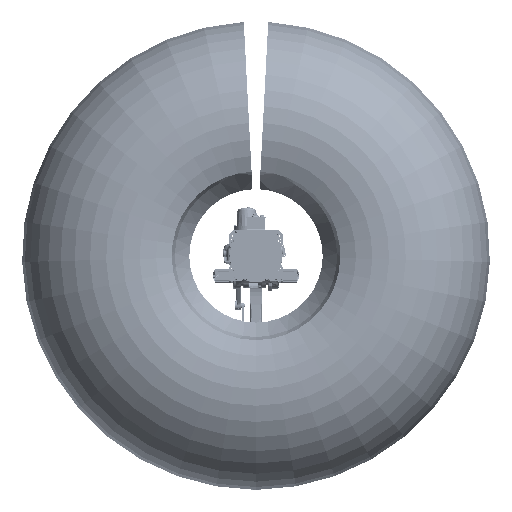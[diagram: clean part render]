
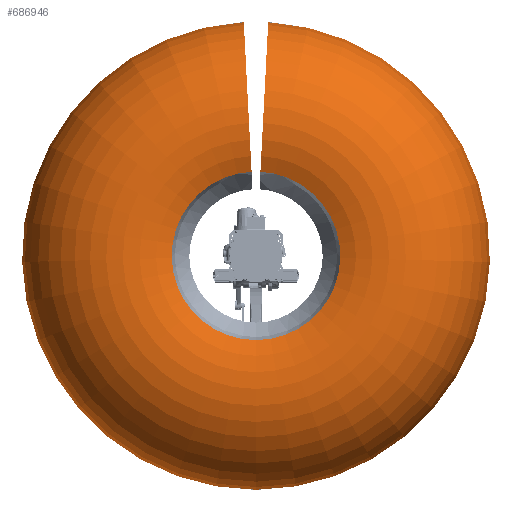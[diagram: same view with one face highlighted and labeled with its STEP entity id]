
A CAD part, front view. The second image highlights one B-rep face of the part: STEP entity #686946.
In plain terms, the highlighted toroidal (fillet/blend) face has major radius 1763 mm and minor radius 1394 mm.
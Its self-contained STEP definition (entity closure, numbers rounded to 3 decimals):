
#686704=CARTESIAN_POINT('',(-92.268,472.44,
1760.585));
#686705=DIRECTION('',(-0.999,0.,-0.052));
#686706=DIRECTION('',(0.024,-0.893,-0.449));
#686707=AXIS2_PLACEMENT_3D('',#686704,#686705,#686706);
#686739=CARTESIAN_POINT('',(0.,358.024,0.));
#686740=DIRECTION('',(0.,-1.,0.));
#686741=DIRECTION('',(-0.052,0.,0.999));
#686742=AXIS2_PLACEMENT_3D('',#686739,#686740,#686741);
#686744=CARTESIAN_POINT('',(0.,-772.425,0.));
#686745=DIRECTION('',(0.,-1.,0.));
#686746=DIRECTION('',(-0.052,0.,0.999));
#686747=AXIS2_PLACEMENT_3D('',#686744,#686745,#686746);
#686774=CARTESIAN_POINT('',(92.268,472.44,
1760.585));
#686775=DIRECTION('',(-0.999,0.,0.052));
#686776=DIRECTION('',(-0.024,-0.893,
-0.449));
#686777=AXIS2_PLACEMENT_3D('',#686774,#686775,#686776);
#686788=CARTESIAN_POINT('',(-59.436,-772.425,
1134.111));
#686789=VERTEX_POINT('',#686788);
#686790=CARTESIAN_POINT('',(-164.979,358.024,
3147.978));
#686791=VERTEX_POINT('',#686790);
#686800=CARTESIAN_POINT('',(59.436,-772.425,
1134.111));
#686801=VERTEX_POINT('',#686800);
#686802=CARTESIAN_POINT('',(164.979,358.024,
3147.978));
#686803=VERTEX_POINT('',#686802);
#686933=CARTESIAN_POINT('',(0.,472.44,0.));
#686934=DIRECTION('',(0.,-1.,0.));
#686935=DIRECTION('',(0.052,0.,-0.999));
#686936=AXIS2_PLACEMENT_3D('',#686933,#686934,#686935);
#686937=TOROIDAL_SURFACE('',#686936,1763.001,1394.);
#686938=ORIENTED_EDGE('',*,*,#686817,.F.);
#686940=ORIENTED_EDGE('',*,*,#686939,.T.);
#686942=ORIENTED_EDGE('',*,*,#686941,.T.);
#686943=ORIENTED_EDGE('',*,*,#686925,.F.);
#686944=EDGE_LOOP('',(#686938,#686940,#686942,#686943));
#686945=FACE_OUTER_BOUND('',#686944,.F.);
#686946=ADVANCED_FACE('',(#686945),#686937,.T.);
#686708=CIRCLE('',#686707,1394.);
#686743=CIRCLE('',#686742,3152.298);
#686748=CIRCLE('',#686747,1135.667);
#686778=CIRCLE('',#686777,1394.);
#686817=EDGE_CURVE('',#686789,#686791,#686708,.T.);
#686925=EDGE_CURVE('',#686791,#686803,#686743,.T.);
#686939=EDGE_CURVE('',#686789,#686801,#686748,.T.);
#686941=EDGE_CURVE('',#686801,#686803,#686778,.T.);
